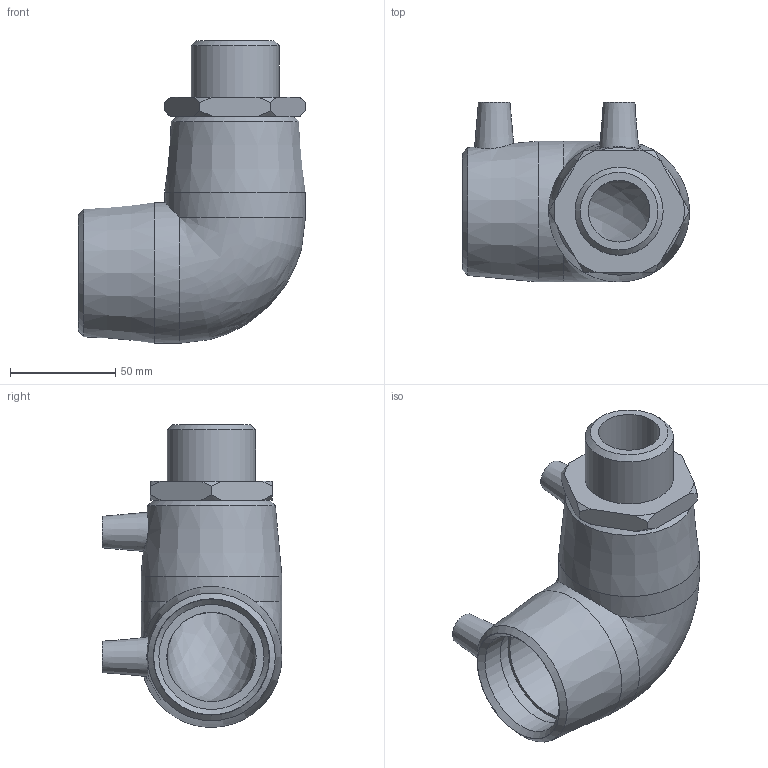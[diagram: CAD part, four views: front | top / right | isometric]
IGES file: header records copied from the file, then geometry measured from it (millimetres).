
Global section: file name: 492504050013.ipt; native system: Autodesk Inventor 2015; preprocessor: unknown; author: KIM; date: 20200202.122347; units: millimetre
Bounding box: 108 x 85.5 x 144 mm (x, y, z)
Volume: 295859.9 mm3; surface area: 66785.8 mm2
Topology: 1 solids, 2 shells, 59 faces, 143 edges, 96 vertices
Faces by surface type: plane 22, cone 19, revolution 10, cylinder 7, bspline 1
Full cylindrical faces by diameter (mm): 4 x2, 41.91 x1, 50 x2, 67 x2
